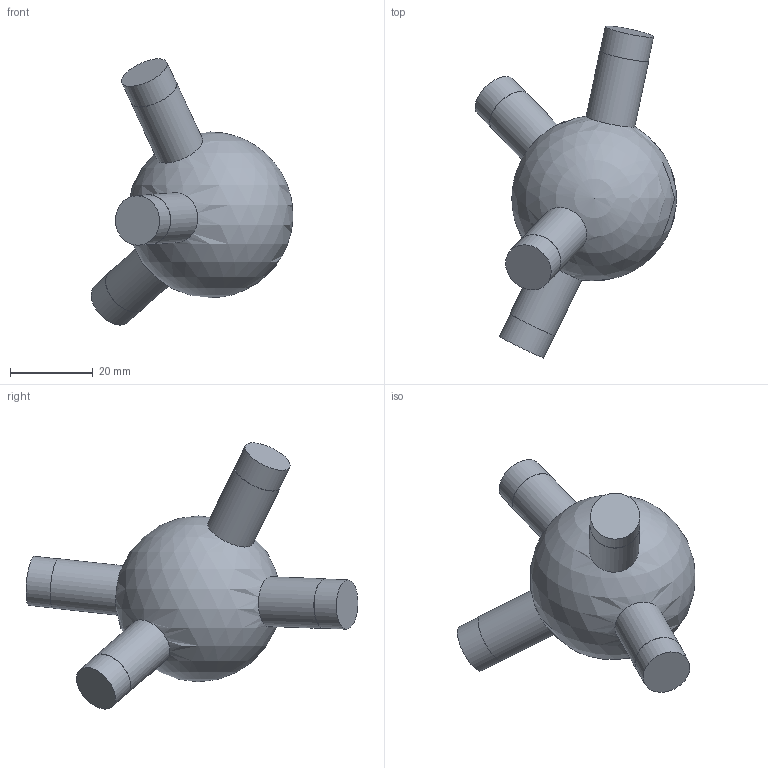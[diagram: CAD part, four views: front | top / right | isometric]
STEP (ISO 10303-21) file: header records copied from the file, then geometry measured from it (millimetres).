
FILE_DESCRIPTION(('Open CASCADE Model'),'2;1');
FILE_NAME('Open CASCADE Shape Model','2026-10-21T12:47:57',('Author'),( 'Open CASCADE'),'Open CASCADE STEP processor 7.9','Open CASCADE 7.9' ,'Unknown');
FILE_SCHEMA(('AUTOMOTIVE_DESIGN { 1 0 10303 214 1 1 1 1 }'));
Length unit declared in the file: millimetre
Products named in the file (1): Open CASCADE STEP translator 7.9 151
Bounding box: 48.68 x 80.11 x 64.26 mm (x, y, z)
Volume: 43091.6 mm3; surface area: 8287.1 mm2
Topology: 1 solids, 1 shells, 17 faces, 27 edges, 18 vertices
Faces by surface type: cylinder 8, plane 8, sphere 1
Full cylindrical faces by diameter (mm): 11.9 x4, 12 x4
Entity records: 934 total; most frequent: CARTESIAN_POINT 349, DIRECTION 120, ORIENTED_EDGE 48, PCURVE 48, DEFINITIONAL_REPRESENTATION 48, LINE 40, VECTOR 40, AXIS2_PLACEMENT_3D 34
